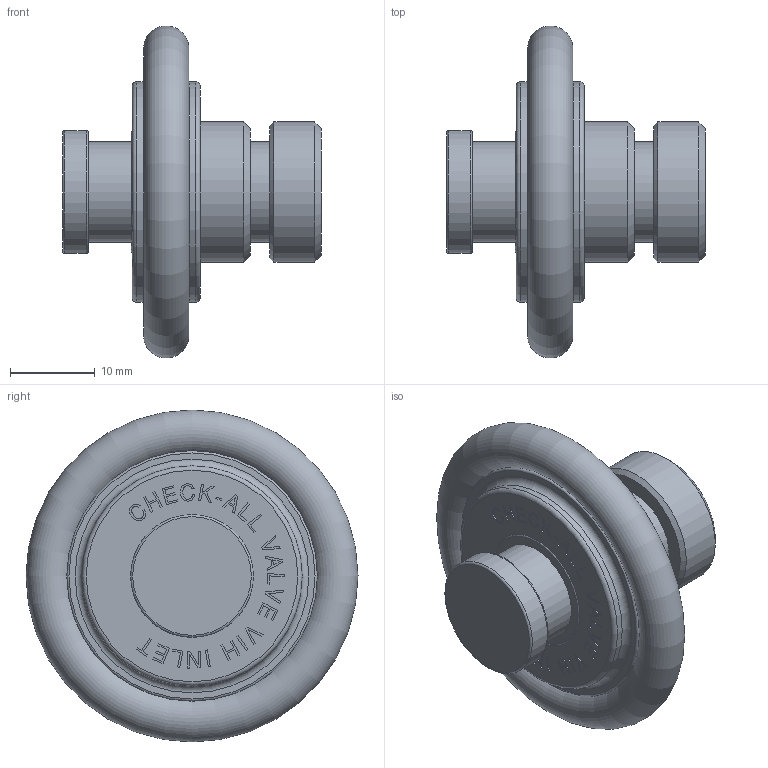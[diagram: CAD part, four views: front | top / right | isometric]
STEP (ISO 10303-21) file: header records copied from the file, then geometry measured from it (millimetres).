
FILE_DESCRIPTION(/* description */ ('Unknown'),/* implementation_level */ '2;1');
FILE_NAME(/* name */ 'VIH',/* time_stamp */ '2018-08-09T11:24:33-05:00',/* author */ ('Unknown'),/* organization */ ('Unknown'),/* preprocessor_version */ 'ST-DEVELOPER v16.7',/* originating_system */ 'DEX',/* authorisation */ $);
FILE_SCHEMA (('AUTOMOTIVE_DESIGN {1 0 10303 214 3 1 1}'));
Length unit declared in the file: millimetre
Products named in the file (1): VIH
Bounding box: 30.48 x 39.11 x 39.11 mm (x, y, z)
Volume: 10957.9 mm3; surface area: 4455.3 mm2
Topology: 1 solids, 1 shells, 231 faces, 581 edges, 383 vertices
Faces by surface type: plane 206, torus 10, cylinder 7, cone 4, bspline 4
Full cylindrical faces by diameter (mm): 11.786 x2, 14.478 x1, 16.51 x2, 25.946 x2
Entity records: 8518 total; most frequent: CARTESIAN_POINT 1403, ORIENTED_EDGE 1120, DIRECTION 1037, EDGE_CURVE 560, LINE 523, VECTOR 523, VERTEX_POINT 383, EDGE_LOOP 283
